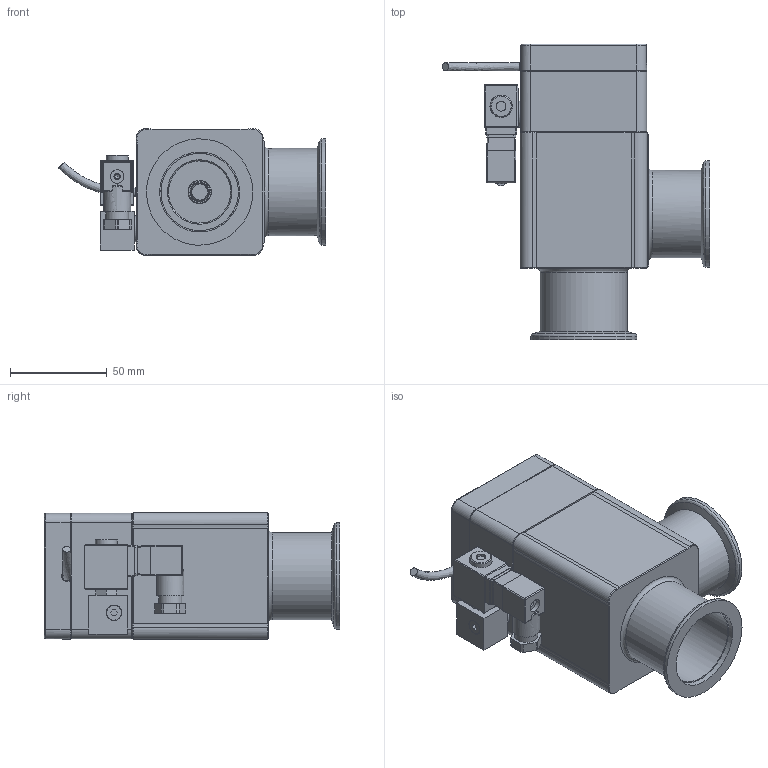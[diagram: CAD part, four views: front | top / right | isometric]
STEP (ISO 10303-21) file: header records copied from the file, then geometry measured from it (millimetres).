
FILE_DESCRIPTION((''),'2;1');
FILE_NAME('C:\TEMP\IDEAS\240332.stp','2006-09-19T16:07:56',('User'),( 'SDRC'),'I-DEAS Master Series 9','UNIX','Yes');
FILE_SCHEMA(('CONFIG_CONTROL_DESIGN'));
Length unit declared in the file: millimetre
Assembly tree (15 placements, depth 0):
Bounding box: 137.88 x 152.7 x 65.6 mm (x, y, z)
Volume: 249581.3 mm3; surface area: 122305.1 mm2
Topology: 21 solids, 23 shells, 727 faces, 1748 edges, 1132 vertices
Faces by surface type: bspline 727
Entity records: 22408 total; most frequent: CARTESIAN_POINT 11266, ORIENTED_EDGE 3138, EDGE_CURVE 1569, VERTEX_POINT 1005, EDGE_LOOP 740, FACE_OUTER_BOUND 652, ADVANCED_FACE 652, B_SPLINE_CURVE_WITH_KNOTS 608
